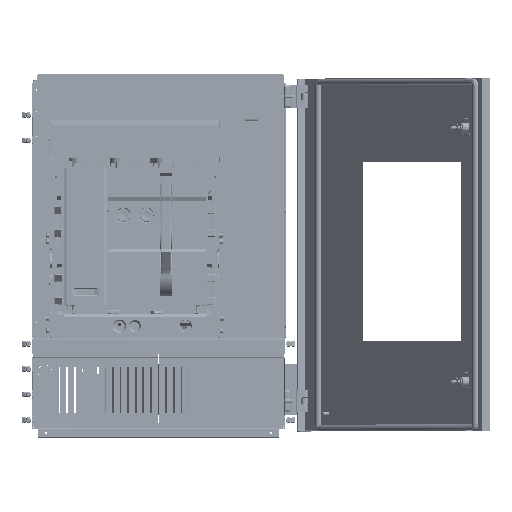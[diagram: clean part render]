
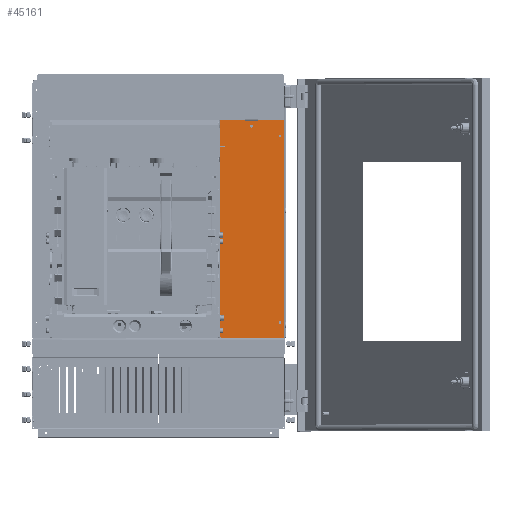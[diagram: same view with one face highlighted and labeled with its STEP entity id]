
A CAD part, top view. The second image highlights one B-rep face of the part: STEP entity #45161.
In plain terms, the highlighted planar face has unit normal (0, 0, 1) as drawn and (0, 0, -1) by its records, which use the part's own axes.
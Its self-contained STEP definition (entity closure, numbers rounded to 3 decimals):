
#43821=CARTESIAN_POINT(' ',(1.5,202.,-1.));
#43826=DIRECTION(' ',(0.,-0.,1.));
#43831=DIRECTION(' ',(-1.,0.,0.));
#43836=AXIS2_PLACEMENT_3D(' ',#43821,#43826,#43831);
#43841=CIRCLE('',#43836,2.75);
#43846=CARTESIAN_POINT(' ',(-1.25,202.,-1.));
#43847=VERTEX_POINT(' ',#43846);
#43851=CARTESIAN_POINT(' ',(4.25,202.,-1.));
#43852=VERTEX_POINT(' ',#43851);
#43856=EDGE_CURVE(' ',#43847,#43852,#43841,.T.);
#43986=DIRECTION(' ',(-0.,0.,-1.));
#43991=CARTESIAN_POINT(' ',(-63.,-220.,-1.));
#43996=DIRECTION(' ',(0.,1.,0.));
#44001=AXIS2_PLACEMENT_3D(' ',#43991,#43986,#43996);
#44006=PLANE('NONE',#44001);
#44011=CARTESIAN_POINT(' ',(-13.5,215.,-1.));
#44016=DIRECTION(' ',(0.707,-0.707,0.));
#44021=VECTOR(' ',#44016,1.);
#44026=LINE('',#44011,#44021);
#44031=CARTESIAN_POINT(' ',(-13.5,215.,-1.));
#44032=VERTEX_POINT(' ',#44031);
#44036=CARTESIAN_POINT(' ',(-11.5,213.,-1.));
#44037=VERTEX_POINT(' ',#44036);
#44041=EDGE_CURVE(' ',#44032,#44037,#44026,.T.);
#44046=ORIENTED_EDGE(' ',*,*,#44041,.T.);
#44051=CARTESIAN_POINT(' ',(-11.5,213.,-1.));
#44056=DIRECTION(' ',(0.,-1.,0.));
#44061=VECTOR(' ',#44056,1.);
#44066=LINE('',#44051,#44061);
#44071=CARTESIAN_POINT(' ',(-11.5,212.,-1.));
#44072=VERTEX_POINT(' ',#44071);
#44076=EDGE_CURVE(' ',#44037,#44072,#44066,.T.);
#44081=ORIENTED_EDGE(' ',*,*,#44076,.T.);
#44086=CARTESIAN_POINT(' ',(-11.5,212.,-1.));
#44091=DIRECTION(' ',(1.,0.,0.));
#44096=VECTOR(' ',#44091,1.);
#44101=LINE('',#44086,#44096);
#44106=CARTESIAN_POINT(' ',(14.5,212.,-1.));
#44107=VERTEX_POINT(' ',#44106);
#44111=EDGE_CURVE(' ',#44072,#44107,#44101,.T.);
#44116=ORIENTED_EDGE(' ',*,*,#44111,.T.);
#44121=CARTESIAN_POINT(' ',(14.5,212.,-1.));
#44126=DIRECTION(' ',(0.,1.,0.));
#44131=VECTOR(' ',#44126,1.);
#44136=LINE('',#44121,#44131);
#44141=CARTESIAN_POINT(' ',(14.5,213.,-1.));
#44142=VERTEX_POINT(' ',#44141);
#44146=EDGE_CURVE(' ',#44107,#44142,#44136,.T.);
#44151=ORIENTED_EDGE(' ',*,*,#44146,.T.);
#44156=CARTESIAN_POINT(' ',(14.5,213.,-1.));
#44161=DIRECTION(' ',(0.707,0.707,0.));
#44166=VECTOR(' ',#44161,1.);
#44171=LINE('',#44156,#44166);
#44176=CARTESIAN_POINT(' ',(16.5,215.,-1.));
#44177=VERTEX_POINT(' ',#44176);
#44181=EDGE_CURVE(' ',#44142,#44177,#44171,.T.);
#44186=ORIENTED_EDGE(' ',*,*,#44181,.T.);
#44191=CARTESIAN_POINT(' ',(61.,215.,-1.));
#44196=DIRECTION(' ',(-1.,0.,0.));
#44201=VECTOR(' ',#44196,1.);
#44206=LINE('',#44191,#44201);
#44211=CARTESIAN_POINT(' ',(61.,215.,-1.));
#44212=VERTEX_POINT(' ',#44211);
#44216=EDGE_CURVE(' ',#44212,#44177,#44206,.T.);
#44221=ORIENTED_EDGE(' ',*,*,#44216,.F.);
#44226=CARTESIAN_POINT(' ',(61.,215.,-1.));
#44231=DIRECTION(' ',(0.707,-0.707,0.));
#44236=VECTOR(' ',#44231,1.);
#44241=LINE('',#44226,#44236);
#44246=CARTESIAN_POINT(' ',(63.,213.,-1.));
#44247=VERTEX_POINT(' ',#44246);
#44251=EDGE_CURVE(' ',#44212,#44247,#44241,.T.);
#44256=ORIENTED_EDGE(' ',*,*,#44251,.T.);
#44261=CARTESIAN_POINT(' ',(63.,-213.,-1.));
#44266=DIRECTION(' ',(0.,1.,0.));
#44271=VECTOR(' ',#44266,1.);
#44276=LINE('',#44261,#44271);
#44281=CARTESIAN_POINT(' ',(63.,-213.,-1.));
#44282=VERTEX_POINT(' ',#44281);
#44286=EDGE_CURVE(' ',#44282,#44247,#44276,.T.);
#44291=ORIENTED_EDGE(' ',*,*,#44286,.F.);
#44296=CARTESIAN_POINT(' ',(63.,-213.,-1.));
#44301=DIRECTION(' ',(-0.707,-0.707,0.));
#44306=VECTOR(' ',#44301,1.);
#44311=LINE('',#44296,#44306);
#44316=CARTESIAN_POINT(' ',(61.,-215.,-1.));
#44317=VERTEX_POINT(' ',#44316);
#44321=EDGE_CURVE(' ',#44282,#44317,#44311,.T.);
#44326=ORIENTED_EDGE(' ',*,*,#44321,.T.);
#44331=CARTESIAN_POINT(' ',(38.,-215.,-1.));
#44336=DIRECTION(' ',(1.,0.,0.));
#44341=VECTOR(' ',#44336,1.);
#44346=LINE('',#44331,#44341);
#44351=CARTESIAN_POINT(' ',(38.,-215.,-1.));
#44352=VERTEX_POINT(' ',#44351);
#44356=EDGE_CURVE(' ',#44352,#44317,#44346,.T.);
#44361=ORIENTED_EDGE(' ',*,*,#44356,.F.);
#44366=CARTESIAN_POINT(' ',(38.,-218.,-1.));
#44371=DIRECTION(' ',(0.,1.,0.));
#44376=VECTOR(' ',#44371,1.);
#44381=LINE('',#44366,#44376);
#44386=CARTESIAN_POINT(' ',(38.,-218.,-1.));
#44387=VERTEX_POINT(' ',#44386);
#44391=EDGE_CURVE(' ',#44387,#44352,#44381,.T.);
#44396=ORIENTED_EDGE(' ',*,*,#44391,.F.);
#44401=CARTESIAN_POINT(' ',(38.,-218.,-1.));
#44406=DIRECTION(' ',(-0.707,-0.707,0.));
#44411=VECTOR(' ',#44406,1.);
#44416=LINE('',#44401,#44411);
#44421=CARTESIAN_POINT(' ',(36.,-220.,-1.));
#44422=VERTEX_POINT(' ',#44421);
#44426=EDGE_CURVE(' ',#44387,#44422,#44416,.T.);
#44431=ORIENTED_EDGE(' ',*,*,#44426,.T.);
#44436=CARTESIAN_POINT(' ',(30.,-220.,-1.));
#44441=DIRECTION(' ',(1.,0.,0.));
#44446=VECTOR(' ',#44441,1.);
#44451=LINE('',#44436,#44446);
#44456=CARTESIAN_POINT(' ',(30.,-220.,-1.));
#44457=VERTEX_POINT(' ',#44456);
#44461=EDGE_CURVE(' ',#44457,#44422,#44451,.T.);
#44466=ORIENTED_EDGE(' ',*,*,#44461,.F.);
#44471=CARTESIAN_POINT(' ',(30.,-220.,-1.));
#44476=DIRECTION(' ',(-0.707,0.707,0.));
#44481=VECTOR(' ',#44476,1.);
#44486=LINE('',#44471,#44481);
#44491=CARTESIAN_POINT(' ',(28.,-218.,-1.));
#44492=VERTEX_POINT(' ',#44491);
#44496=EDGE_CURVE(' ',#44457,#44492,#44486,.T.);
#44501=ORIENTED_EDGE(' ',*,*,#44496,.T.);
#44506=CARTESIAN_POINT(' ',(28.,-215.,-1.));
#44511=DIRECTION(' ',(0.,-1.,0.));
#44516=VECTOR(' ',#44511,1.);
#44521=LINE('',#44506,#44516);
#44526=CARTESIAN_POINT(' ',(28.,-215.,-1.));
#44527=VERTEX_POINT(' ',#44526);
#44531=EDGE_CURVE(' ',#44527,#44492,#44521,.T.);
#44536=ORIENTED_EDGE(' ',*,*,#44531,.F.);
#44541=CARTESIAN_POINT(' ',(-28.,-215.,-1.));
#44546=DIRECTION(' ',(1.,0.,0.));
#44551=VECTOR(' ',#44546,1.);
#44556=LINE('',#44541,#44551);
#44561=CARTESIAN_POINT(' ',(-28.,-215.,-1.));
#44562=VERTEX_POINT(' ',#44561);
#44566=EDGE_CURVE(' ',#44562,#44527,#44556,.T.);
#44571=ORIENTED_EDGE(' ',*,*,#44566,.F.);
#44576=CARTESIAN_POINT(' ',(-28.,-218.,-1.));
#44581=DIRECTION(' ',(0.,1.,0.));
#44586=VECTOR(' ',#44581,1.);
#44591=LINE('',#44576,#44586);
#44596=CARTESIAN_POINT(' ',(-28.,-218.,-1.));
#44597=VERTEX_POINT(' ',#44596);
#44601=EDGE_CURVE(' ',#44597,#44562,#44591,.T.);
#44606=ORIENTED_EDGE(' ',*,*,#44601,.F.);
#44611=CARTESIAN_POINT(' ',(-28.,-218.,-1.));
#44616=DIRECTION(' ',(-0.707,-0.707,0.));
#44621=VECTOR(' ',#44616,1.);
#44626=LINE('',#44611,#44621);
#44631=CARTESIAN_POINT(' ',(-30.,-220.,-1.));
#44632=VERTEX_POINT(' ',#44631);
#44636=EDGE_CURVE(' ',#44597,#44632,#44626,.T.);
#44641=ORIENTED_EDGE(' ',*,*,#44636,.T.);
#44646=CARTESIAN_POINT(' ',(-36.,-220.,-1.));
#44651=DIRECTION(' ',(1.,0.,0.));
#44656=VECTOR(' ',#44651,1.);
#44661=LINE('',#44646,#44656);
#44666=CARTESIAN_POINT(' ',(-36.,-220.,-1.));
#44667=VERTEX_POINT(' ',#44666);
#44671=EDGE_CURVE(' ',#44667,#44632,#44661,.T.);
#44676=ORIENTED_EDGE(' ',*,*,#44671,.F.);
#44681=CARTESIAN_POINT(' ',(-36.,-220.,-1.));
#44686=DIRECTION(' ',(-0.707,0.707,0.));
#44691=VECTOR(' ',#44686,1.);
#44696=LINE('',#44681,#44691);
#44701=CARTESIAN_POINT(' ',(-38.,-218.,-1.));
#44702=VERTEX_POINT(' ',#44701);
#44706=EDGE_CURVE(' ',#44667,#44702,#44696,.T.);
#44711=ORIENTED_EDGE(' ',*,*,#44706,.T.);
#44716=CARTESIAN_POINT(' ',(-38.,-215.,-1.));
#44721=DIRECTION(' ',(0.,-1.,0.));
#44726=VECTOR(' ',#44721,1.);
#44731=LINE('',#44716,#44726);
#44736=CARTESIAN_POINT(' ',(-38.,-215.,-1.));
#44737=VERTEX_POINT(' ',#44736);
#44741=EDGE_CURVE(' ',#44737,#44702,#44731,.T.);
#44746=ORIENTED_EDGE(' ',*,*,#44741,.F.);
#44751=CARTESIAN_POINT(' ',(-61.,-215.,-1.));
#44756=DIRECTION(' ',(1.,0.,0.));
#44761=VECTOR(' ',#44756,1.);
#44766=LINE('',#44751,#44761);
#44771=CARTESIAN_POINT(' ',(-61.,-215.,-1.));
#44772=VERTEX_POINT(' ',#44771);
#44776=EDGE_CURVE(' ',#44772,#44737,#44766,.T.);
#44781=ORIENTED_EDGE(' ',*,*,#44776,.F.);
#44786=CARTESIAN_POINT(' ',(-61.,-215.,-1.));
#44791=DIRECTION(' ',(-0.707,0.707,0.));
#44796=VECTOR(' ',#44791,1.);
#44801=LINE('',#44786,#44796);
#44806=CARTESIAN_POINT(' ',(-63.,-213.,-1.));
#44807=VERTEX_POINT(' ',#44806);
#44811=EDGE_CURVE(' ',#44772,#44807,#44801,.T.);
#44816=ORIENTED_EDGE(' ',*,*,#44811,.T.);
#44821=CARTESIAN_POINT(' ',(-63.,213.,-1.));
#44826=DIRECTION(' ',(0.,-1.,0.));
#44831=VECTOR(' ',#44826,1.);
#44836=LINE('',#44821,#44831);
#44841=CARTESIAN_POINT(' ',(-63.,213.,-1.));
#44842=VERTEX_POINT(' ',#44841);
#44846=EDGE_CURVE(' ',#44842,#44807,#44836,.T.);
#44851=ORIENTED_EDGE(' ',*,*,#44846,.F.);
#44856=CARTESIAN_POINT(' ',(-63.,213.,-1.));
#44861=DIRECTION(' ',(0.707,0.707,0.));
#44866=VECTOR(' ',#44861,1.);
#44871=LINE('',#44856,#44866);
#44876=CARTESIAN_POINT(' ',(-61.,215.,-1.));
#44877=VERTEX_POINT(' ',#44876);
#44881=EDGE_CURVE(' ',#44842,#44877,#44871,.T.);
#44886=ORIENTED_EDGE(' ',*,*,#44881,.T.);
#44891=CARTESIAN_POINT(' ',(-13.5,215.,-1.));
#44896=DIRECTION(' ',(-1.,0.,0.));
#44901=VECTOR(' ',#44896,1.);
#44906=LINE('',#44891,#44901);
#44911=EDGE_CURVE(' ',#44032,#44877,#44906,.T.);
#44916=ORIENTED_EDGE(' ',*,*,#44911,.F.);
#44921=EDGE_LOOP(' ',(#44046,#44081,#44116,#44151,#44186,#44221,#44256,#44291,#44326,#44361,#44396,#44431,#44466,#44501,#44536,#44571,#44606,#44641,#44676,#44711,#44746,#44781,#44816,#44851,#44886,#44916));
#44926=FACE_OUTER_BOUND(' ',#44921,.T.);
#44931=CARTESIAN_POINT(' ',(1.5,202.,-1.));
#44936=DIRECTION(' ',(0.,0.,1.));
#44941=DIRECTION(' ',(1.,0.,0.));
#44946=AXIS2_PLACEMENT_3D(' ',#44931,#44936,#44941);
#44951=CIRCLE('',#44946,2.75);
#44956=EDGE_CURVE(' ',#43852,#43847,#44951,.T.);
#44961=ORIENTED_EDGE(' ',*,*,#44956,.T.);
#44966=ORIENTED_EDGE(' ',*,*,#43856,.T.);
#44971=EDGE_LOOP(' ',(#44961,#44966));
#44976=FACE_BOUND(' ',#44971,.T.);
#44981=CARTESIAN_POINT(' ',(-54.5,182.5,-1.));
#44986=DIRECTION(' ',(0.,0.,1.));
#44991=DIRECTION(' ',(1.,0.,0.));
#44996=AXIS2_PLACEMENT_3D(' ',#44981,#44986,#44991);
#45001=CIRCLE('',#44996,2.75);
#45006=CARTESIAN_POINT(' ',(-51.75,182.5,-1.));
#45007=VERTEX_POINT(' ',#45006);
#45011=CARTESIAN_POINT(' ',(-57.25,182.5,-1.));
#45012=VERTEX_POINT(' ',#45011);
#45016=EDGE_CURVE(' ',#45007,#45012,#45001,.T.);
#45021=ORIENTED_EDGE(' ',*,*,#45016,.T.);
#45026=CARTESIAN_POINT(' ',(-54.5,182.5,-1.));
#45031=DIRECTION(' ',(0.,-0.,1.));
#45036=DIRECTION(' ',(-1.,0.,0.));
#45041=AXIS2_PLACEMENT_3D(' ',#45026,#45031,#45036);
#45046=CIRCLE('',#45041,2.75);
#45051=EDGE_CURVE(' ',#45012,#45007,#45046,.T.);
#45056=ORIENTED_EDGE(' ',*,*,#45051,.T.);
#45061=EDGE_LOOP(' ',(#45021,#45056));
#45066=FACE_BOUND(' ',#45061,.T.);
#45071=CARTESIAN_POINT(' ',(-54.5,-185.,-1.));
#45076=DIRECTION(' ',(0.,0.,1.));
#45081=DIRECTION(' ',(1.,0.,0.));
#45086=AXIS2_PLACEMENT_3D(' ',#45071,#45076,#45081);
#45091=CIRCLE('',#45086,2.75);
#45096=CARTESIAN_POINT(' ',(-51.75,-185.,-1.));
#45097=VERTEX_POINT(' ',#45096);
#45101=CARTESIAN_POINT(' ',(-57.25,-185.,-1.));
#45102=VERTEX_POINT(' ',#45101);
#45106=EDGE_CURVE(' ',#45097,#45102,#45091,.T.);
#45111=ORIENTED_EDGE(' ',*,*,#45106,.T.);
#45116=CARTESIAN_POINT(' ',(-54.5,-185.,-1.));
#45121=DIRECTION(' ',(0.,-0.,1.));
#45126=DIRECTION(' ',(-1.,0.,0.));
#45131=AXIS2_PLACEMENT_3D(' ',#45116,#45121,#45126);
#45136=CIRCLE('',#45131,2.75);
#45141=EDGE_CURVE(' ',#45102,#45097,#45136,.T.);
#45146=ORIENTED_EDGE(' ',*,*,#45141,.T.);
#45151=EDGE_LOOP(' ',(#45111,#45146));
#45156=FACE_BOUND(' ',#45151,.T.);
#45161=ADVANCED_FACE('NONE',(#44926,#44976,#45066,#45156),#44006,.T.);
